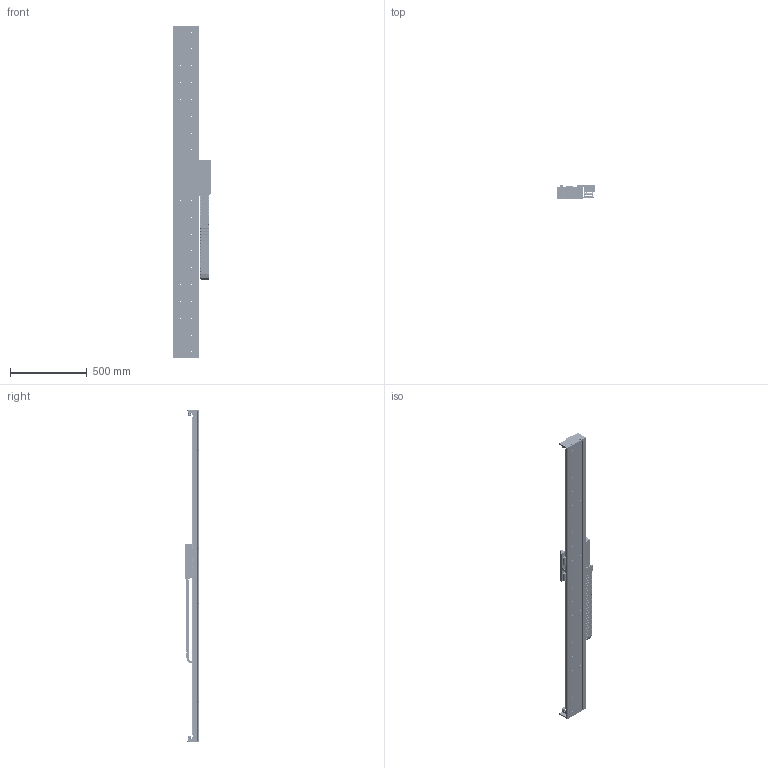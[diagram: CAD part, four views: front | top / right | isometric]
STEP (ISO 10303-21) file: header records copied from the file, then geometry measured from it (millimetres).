
FILE_DESCRIPTION (( 'STEP AP203' ), '1' );
FILE_NAME ('STF35120Q-xC1B-Axx.STEP', '2007-09-17T21:11:53', ( 'Yaskawa' ), ( 'Yaskawa' ), 'SwSTEP 2.0', 'SolidWorks 2007', '' );
FILE_SCHEMA (( 'CONFIG_CONTROL_DESIGN' ));
Products named in the file (63): STF2035-007 End Stop; STF35BM Base_STF35120-016; Bumper-Medium; B18.3.1M - 6 x 1.0 x 16 Hex SHCS -- 16NHX_B18.3.1M - 6 x 1.0 x 16 Hex SHCS -- 16NHX; STF2035-002A-R2 F2035 Carriage Horn; STF2035-005-R2 Cable Router; STCM-R1; STCM-001-R2 Cable Bracket; Serial Converter; B18.3.5M - 3 x 0.5 x 6 Socket FCHS  -- 6N_B18.3.5M - 3 x 0.5 x 6 Socket FCHS  -- 6N; STCM-007 Lower E-Chain Bracket; STF20120Q; 07.50.028.0_100; 07.50.028.0_96; 07.50.028.0_101; 07.50.028.0_108; 07.50.028.0_109; 07.50.028.0_116; 07.50.028.0_115; 07.50.028.0_118; 07.50.028.0_123; 07.50.028.0_111; STF35120Q-xC1B-Axx; STF35120 Base_STF35BM-016; SGLFM-35540AC; SGLFM-35756AC; End Stop with Bumper; Mult-SR15+580LY_016; STF35120 Complete Carriage; STF35-120 SSR15W Carriage-R2; STF2035-001C F35-120 Carriage; STF2035-003 Renishaw Encoder Mount; RGH22B; STF2035-004 Flag; SSR15W Block; SGLFW-35120AP; STCM-002-R2 Cable Assembly Front; STCM-003 Cable Assembly Bottom; STCM-004 Cable Assembly Side; STCM-005-R1 Cable Assembly Cover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
Assembly tree (155 placements, depth 4):
  STF35120Q-xC1B-Axx
    STCM-007 Lower E-Chain Bracket
    STF35120 Complete Carriage
      B18.3.1M - 4 x 0.7 x 12 Hex SHCS -- 12CHX_B18.3.1M - 4 x 0.7 x 12 Hex SHCS -- 12CHX  x18
      B18.3.1M - 6 x 1.0 x 25 Hex SHCS -- 25CHX_B18.3.1M - 6 x 1.0 x 25 Hex SHCS -- 25CHX  x6
      B18.3.4M - 3 x 0.5 x 12 SBHCS --N_B18.3.4M - 3 x 0.5 x 12 SBHCS --N  x3
      STCM-R1
        STCM-001-R2 Cable Bracket
        B18.3.5M - 3 x 0.5 x 6 Socket FCHS  -- 6N_B18.3.5M - 3 x 0.5 x 6 Socket FCHS  -- 6N  x6
        B18.3.4M - 3 x 0.5 x 12 SBHCS --N_B18.3.4M - 3 x 0.5 x 12 SBHCS --N  x4
        STCM-003 Cable Assembly Bottom
        STCM-006-R1 Upper E-chain Bracket
        STCM-004 Cable Assembly Side
        STCM-002-R2 Cable Assembly Front
        Serial Converter
        STCM-005-R1 Cable Assembly Cover
      STF35-120 SSR15W Carriage-R2
        SSR15W Block  x4
        STF2035-005-R2 Cable Router
        STF2035-004 Flag
        STF2035-001C F35-120 Carriage
        SGLFW-35120AP
        STF2035-003 Renishaw Encoder Mount
        RGH22B
        STF2035-002A-R2 F2035 Carriage Horn  x2
    STF2035-006 Endplate  x2
    STF20120Q
      07.50.028.0_99
      07.50.028.0_100
      07.50.028.0_108
      07.50.028.0_112
      07.50.028.0_105  x15
      07.50.028.0_121
      07.50.028.0_118
      07.50.028.0_119
      07.50.028.0_111  x17
      07.50.028.0_123
      07.50.028.0_101
      07.50.028.0_106
      07.50.028.0_113
      07.50.028.0_117
      07.50.028.0_98
      07.50.028.0_120
      07.50.028.0_96
      07.50.028.0_102
      07.50.028.0_114
      07.50.028.0_107
      07.50.028.0_109
      07.50.028.0_97
      07.50.028.0_116
      07.50.028.0_110
      07.50.028.0_122
      07.50.028.0_103
      07.50.028.0_104
      07.50.028.0_115
    STF35BM Base_STF35120-016
      B18.3.1M - 4 x 0.7 x 12 Hex SHCS -- 12CHX_B18.3.1M - 4 x 0.7 x 12 Hex SHCS -- 12CHX  x20
      End Stop with Bumper  x4
        STF2035-007 End Stop
        Bumper-Medium
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Bounding box: 251.03 x 94.7 x 2169.05 mm (x, y, z)
Volume: 9988848.9 mm3; surface area: 2817320.6 mm2
Topology: 211 solids, 211 shells, 9802 faces, 24747 edges, 15548 vertices
Faces by surface type: plane 5033, cylinder 3617, cone 968, torus 126, bspline 44, sphere 14
Entity records: 159457 total; most frequent: DIRECTION 26950, CARTESIAN_POINT 26105, ORIENTED_EDGE 24640, EDGE_CURVE 12320, AXIS2_PLACEMENT_3D 9547, VERTEX_POINT 8041, VECTOR 7856, LINE 7856
